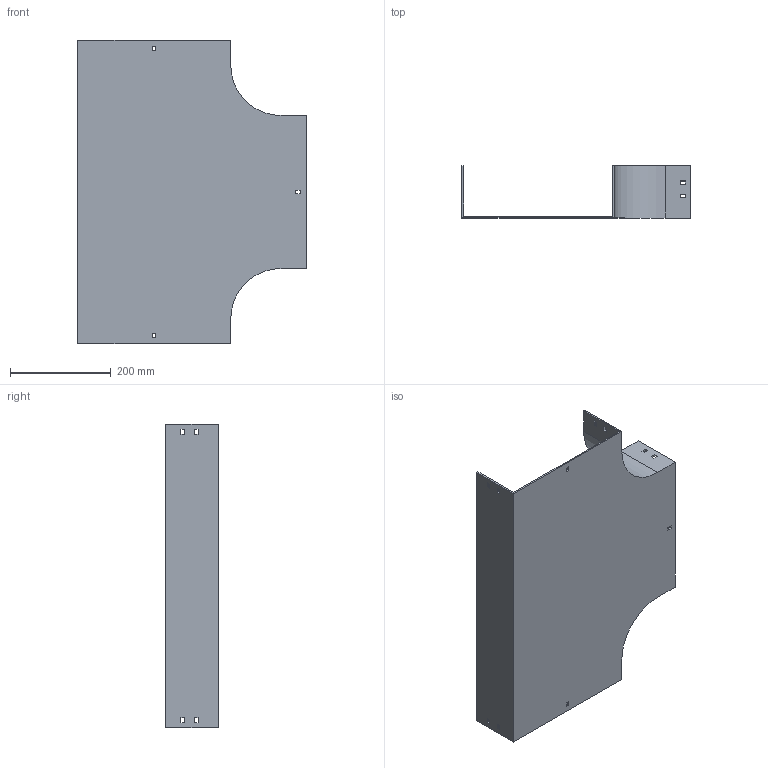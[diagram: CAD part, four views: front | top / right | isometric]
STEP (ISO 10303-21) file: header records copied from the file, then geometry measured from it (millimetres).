
FILE_DESCRIPTION (( 'STEP AP214' ), '1' );
FILE_NAME ('15B1D300.step', '2025-02-21T09:53:18', ( '' ), ( '' ), 'SwSTEP 2.0', 'SolidWorks 2023', '' );
FILE_SCHEMA (( 'AUTOMOTIVE_DESIGN' ));
Length unit declared in the file: millimetre
Products named in the file (1): 15B1D300
Bounding box: 454 x 104 x 604 mm (x, y, z)
Volume: 1208970.2 mm3; surface area: 701809.7 mm2
Topology: 1 solids, 1 shells, 82 faces, 240 edges, 160 vertices
Faces by surface type: plane 78, cylinder 4
Entity records: 2755 total; most frequent: CARTESIAN_POINT 483, ORIENTED_EDGE 480, DIRECTION 414, EDGE_CURVE 240, VECTOR 232, LINE 232, VERTEX_POINT 160, EDGE_LOOP 112
